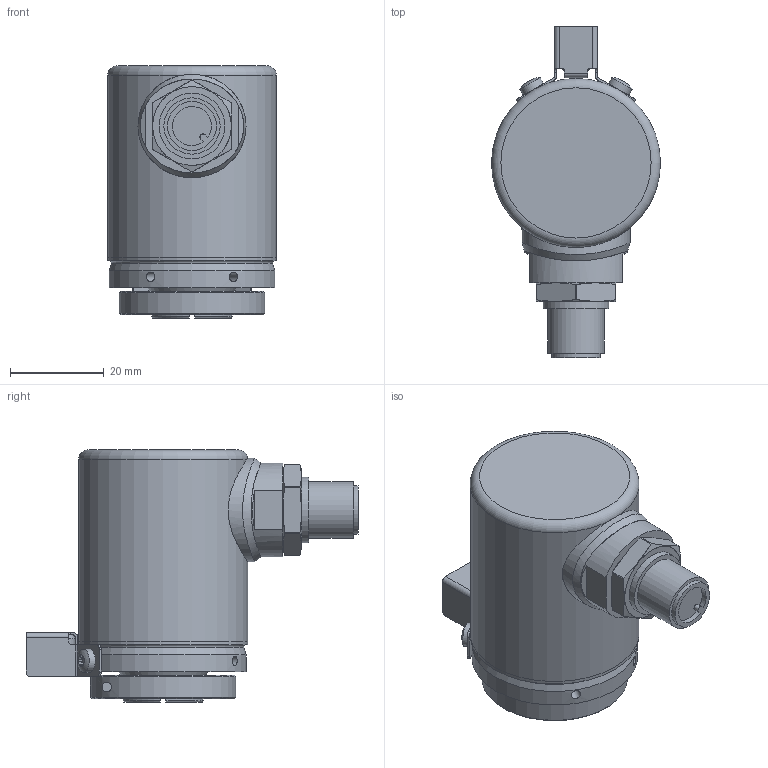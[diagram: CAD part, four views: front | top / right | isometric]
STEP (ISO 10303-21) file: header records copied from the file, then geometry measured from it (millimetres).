
FILE_DESCRIPTION( ( 'Unknown' ), '1' );
FILE_NAME( 'Z:/PJ-RD-MC/10601626_MAGRES_4/20__Produktmanagement/Datenblatt/Vereinfachte Modelle und DAB-Zeichnungen/November 2016/36/Hohlwelle/EAM360-BPE.xxxx.xxxxx.A_M12.stp', 'Unknown', ( 'Unknown' ), ( 'Unknown' ), 'PSStep 15.0.49', 'Unknown', ' ' );
FILE_SCHEMA( ( 'AUTOMOTIVE_DESIGN { 1 0 10303 214 1 1 1 1 }' ) );
Length unit declared in the file: millimetre
Products named in the file (15): Stecker M12; 11159954_vereinfacht; 11159955_vereinfacht; 6Kant Mutter M14; 36 H BoMo 14 vereinfacht; 11158184_vereinfacht; 126053; 11115507; 11158188 vereinfacht; EAM360-BNE.xxxx.xxxxx.A_M12; 11161012_vereinfacht; Assem1; 11174223; 10116600; 138551
Assembly tree (15 placements, depth 4):
  Assem1
    11174223
    10116600
    138551  x2
    EAM360-BNE.xxxx.xxxxx.A_M12
      11161012_vereinfacht
      Stecker M12
        11159954_vereinfacht
        11159955_vereinfacht
        6Kant Mutter M14
      36 H BoMo 14 vereinfacht
        11158184_vereinfacht
        126053
        11115507
        11158188 vereinfacht
Bounding box: 36 x 70.7 x 53.7 mm (x, y, z)
Surface area: 22859.6 mm2 (no closed solid volume)
Topology: 0 solids, 271 shells, 271 faces, 1295 edges, 1245 vertices
Faces by surface type: plane 144, cylinder 91, cone 21, torus 10, sphere 2, extrusion 2, bspline 1
Full cylindrical faces by diameter (mm): 2.013 x9, 2.5 x3, 2.55 x2, 2.6 x1, 4.5 x1, 5 x2, 10.4 x1, 12 x1, 14 x3, 14.522 x1, 15.5 x1, 19 x2, 34.4 x2, 35.3 x1, 36 x2
Entity records: 14590 total; most frequent: CARTESIAN_POINT 4142, DIRECTION 1876, ORIENTED_EDGE 1106, EDGE_CURVE 1106, VERTEX_POINT 1106, AXIS2_PLACEMENT_3D 650, VECTOR 576, LINE 574
